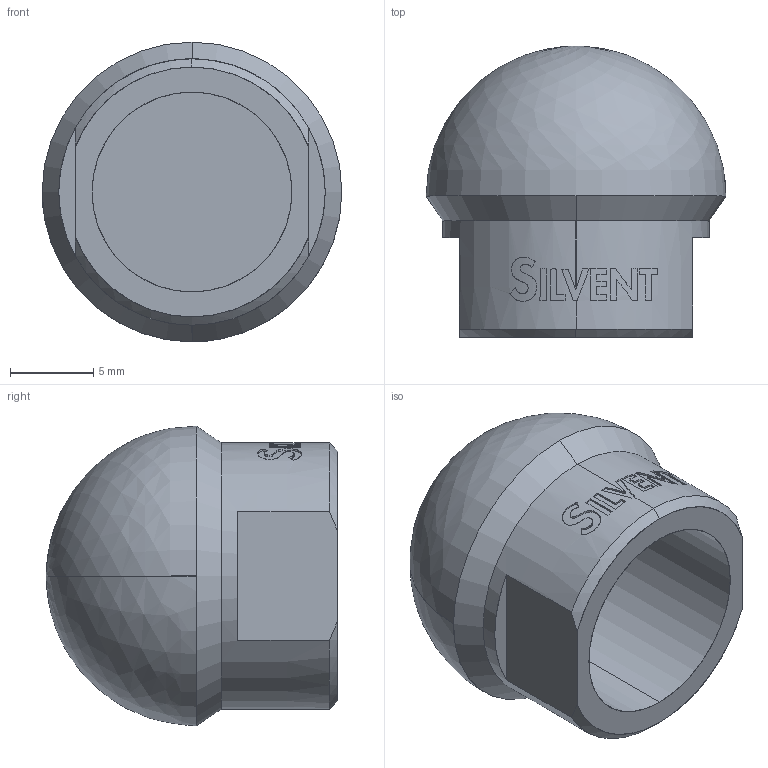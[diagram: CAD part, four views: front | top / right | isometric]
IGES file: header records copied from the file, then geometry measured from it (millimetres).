
Start section: SolidWorks IGES file using analytic representation for surfaces
Global section: file name: G:\Silvent\Ritningar\Övrigt\IGES\Silvent 910.IGS; native system: SolidWorks 2006 by SolidWorks Corporation; preprocessor: SolidWorks 2006 by SolidWorks Corporation; author: SilvRaTi; date: 070109.105853; units: millimetre
Bounding box: 18 x 17.5 x 18 mm (x, y, z)
Surface area: 1525.8 mm2 (no closed solid volume)
Topology: 0 solids, 0 shells, 149 faces, 1019 edges, 1018 vertices
Faces by surface type: revolution 95, bspline 54
